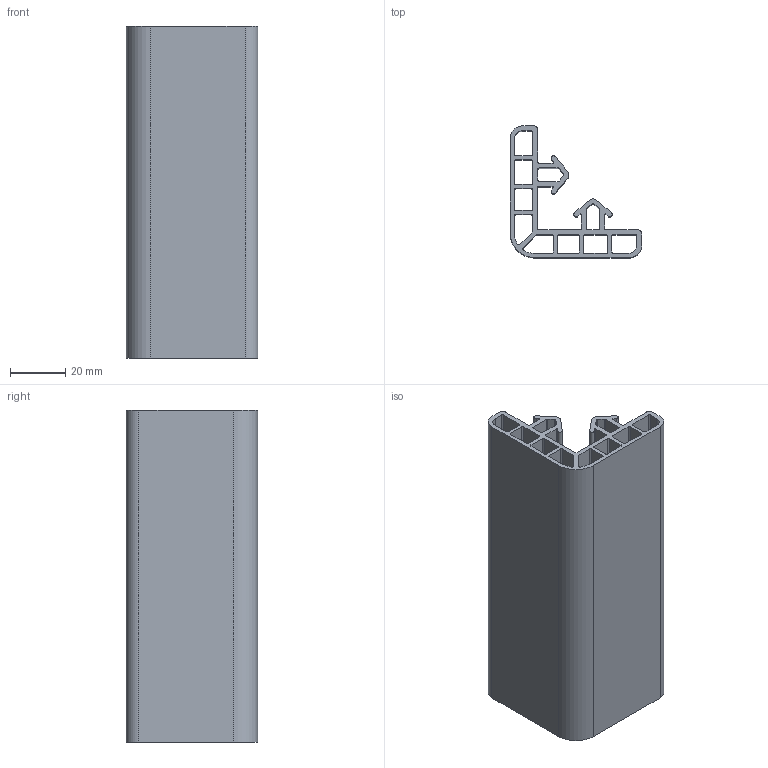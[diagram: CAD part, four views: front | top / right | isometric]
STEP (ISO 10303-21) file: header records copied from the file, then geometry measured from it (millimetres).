
FILE_DESCRIPTION(/* description */ (''),/* implementation_level */ '2;1');
FILE_NAME(/* name */ 'D:\cadd\new~產品型錄\配件\8系列\AMF-08L.stp',/* time_stamp */ '2016-12-09T14:24:25+08:00',/* author */ ('Owner'),/* organization */ (''),/* preprocessor_version */ 'ST-DEVELOPER v15.2',/* originating_system */ 'Autodesk Inventor 2014',/* authorisation */ '');
FILE_SCHEMA (('AUTOMOTIVE_DESIGN { 1 0 10303 214 3 1 1 }'));
Length unit declared in the file: millimetre
Products named in the file (1): AMF-08L
Bounding box: 47.6 x 47.6 x 120 mm (x, y, z)
Volume: 56247.6 mm3; surface area: 64222 mm2
Topology: 1 solids, 1 shells, 127 faces, 375 edges, 250 vertices
Faces by surface type: plane 64, cylinder 63
Entity records: 4336 total; most frequent: DIRECTION 757, CARTESIAN_POINT 753, ORIENTED_EDGE 750, EDGE_CURVE 375, AXIS2_PLACEMENT_3D 254, VERTEX_POINT 250, LINE 249, VECTOR 249
